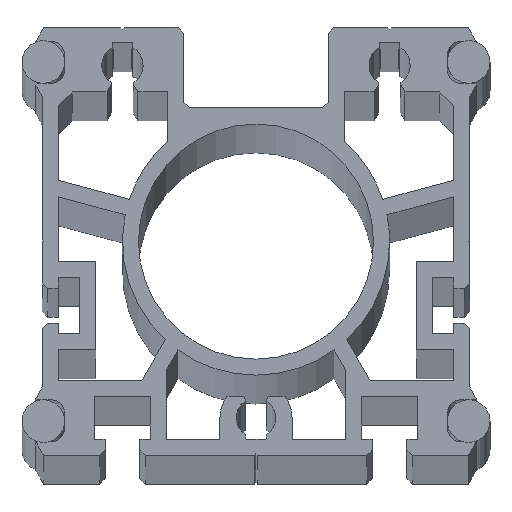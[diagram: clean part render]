
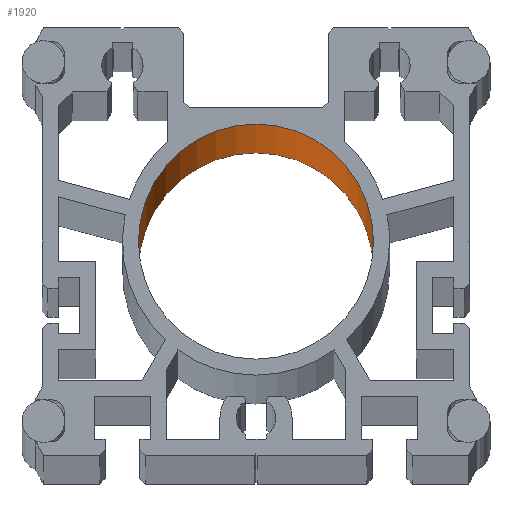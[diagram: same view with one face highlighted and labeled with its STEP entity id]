
A CAD part, top view. The second image highlights one B-rep face of the part: STEP entity #1920.
In plain terms, the highlighted cylindrical face has radius 22 mm (diameter 44 mm), a partial arc.
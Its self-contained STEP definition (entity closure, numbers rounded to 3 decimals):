
#179 = VERTEX_POINT ( 'NONE', #3367 ) ;
#180 = VERTEX_POINT ( 'NONE', #3366 ) ;
#181 = VERTEX_POINT ( 'NONE', #3365 ) ;
#221 = EDGE_CURVE ( 'NONE', #179, #181, #3281, .T. ) ;
#224 = VERTEX_POINT ( 'NONE', #3272 ) ;
#226 = EDGE_CURVE ( 'NONE', #180, #224, #3271, .T. ) ;
#1642 = EDGE_CURVE ( 'NONE', #180, #179, #5818, .T. ) ;
#1918 = EDGE_CURVE ( 'NONE', #224, #181, #6021, .T. ) ;
#1920 = ADVANCED_FACE ( 'NONE', ( #6016 ), #6015, .F. ) ;
#1921 = EDGE_LOOP ( 'NONE', ( #1922, #1923, #1924, #1925 ) ) ;
#1922 = ORIENTED_EDGE ( 'NONE', *, *, #221, .F. ) ;
#1923 = ORIENTED_EDGE ( 'NONE', *, *, #1642, .F. ) ;
#1924 = ORIENTED_EDGE ( 'NONE', *, *, #226, .T. ) ;
#1925 = ORIENTED_EDGE ( 'NONE', *, *, #1918, .T. ) ;
#3268 = DIRECTION ( 'NONE',  ( 0., 0., 1. ) ) ;
#3269 = VECTOR ( 'NONE', #3268, 1000. ) ;
#3270 = CARTESIAN_POINT ( 'NONE',  ( 22., 40., -1549. ) ) ;
#3271 = LINE ( 'NONE', #3270, #3269 ) ;
#3272 = CARTESIAN_POINT ( 'NONE',  ( 22., 40., 1549. ) ) ;
#3278 = DIRECTION ( 'NONE',  ( 0., 0., 1. ) ) ;
#3279 = VECTOR ( 'NONE', #3278, 1000. ) ;
#3280 = CARTESIAN_POINT ( 'NONE',  ( -22., 40., -1549. ) ) ;
#3281 = LINE ( 'NONE', #3280, #3279 ) ;
#3365 = CARTESIAN_POINT ( 'NONE',  ( -22., 40., 1549. ) ) ;
#3366 = CARTESIAN_POINT ( 'NONE',  ( 22., 40., -1549. ) ) ;
#3367 = CARTESIAN_POINT ( 'NONE',  ( -22., 40., -1549. ) ) ;
#5814 = DIRECTION ( 'NONE',  ( 1., 0., 0. ) ) ;
#5815 = DIRECTION ( 'NONE',  ( 0., 0., 1. ) ) ;
#5816 = CARTESIAN_POINT ( 'NONE',  ( 0., 40., -1549. ) ) ;
#5817 = AXIS2_PLACEMENT_3D ( 'NONE', #5816, #5815, #5814 ) ;
#5818 = CIRCLE ( 'NONE', #5817, 22. ) ;
#6009 = DIRECTION ( 'NONE',  ( 1., 0., 0. ) ) ;
#6010 = DIRECTION ( 'NONE',  ( 0., 0., 1. ) ) ;
#6011 = CARTESIAN_POINT ( 'NONE',  ( 0., 40., -1549. ) ) ;
#6012 = AXIS2_PLACEMENT_3D ( 'NONE', #6011, #6010, #6009 ) ;
#6015 = CYLINDRICAL_SURFACE ( 'NONE', #6012, 22. ) ;
#6016 = FACE_OUTER_BOUND ( 'NONE', #1921, .T. ) ;
#6017 = DIRECTION ( 'NONE',  ( 1., 0., 0. ) ) ;
#6018 = DIRECTION ( 'NONE',  ( 0., 0., 1. ) ) ;
#6019 = CARTESIAN_POINT ( 'NONE',  ( 0., 40., 1549. ) ) ;
#6020 = AXIS2_PLACEMENT_3D ( 'NONE', #6019, #6018, #6017 ) ;
#6021 = CIRCLE ( 'NONE', #6020, 22. ) ;
